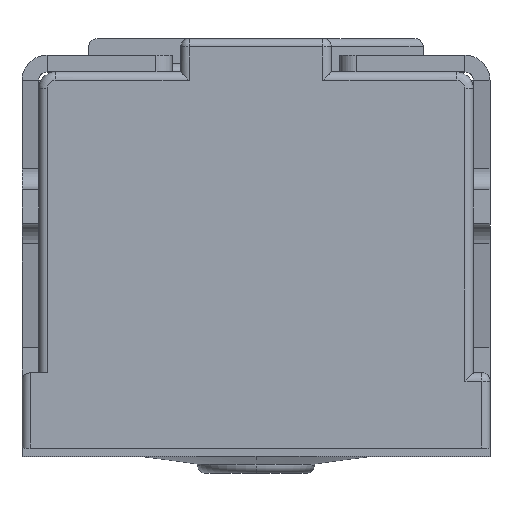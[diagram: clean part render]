
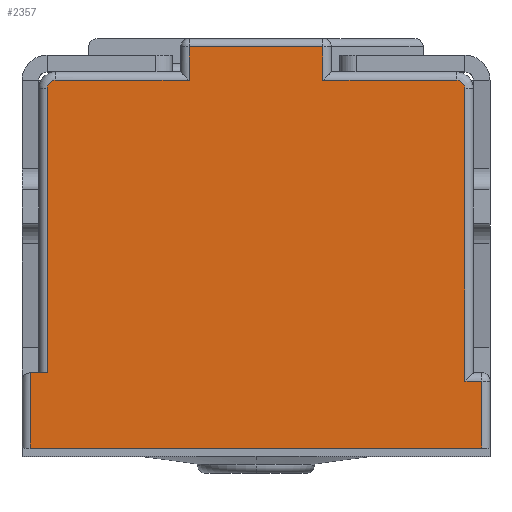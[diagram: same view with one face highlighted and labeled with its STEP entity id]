
A CAD part, top view. The second image highlights one B-rep face of the part: STEP entity #2357.
In plain terms, the highlighted planar face has unit normal (0, 0, 1).
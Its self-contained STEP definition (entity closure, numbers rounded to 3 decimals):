
#48=DIRECTION('',(1.,0.,0.));
#49=VECTOR('',#48,2.7);
#50=CARTESIAN_POINT('',(-1.35,0.,1.025));
#51=LINE('',#50,#49);
#183=DIRECTION('',(0.,-1.,0.));
#184=VECTOR('',#183,0.4);
#185=CARTESIAN_POINT('',(1.35,0.4,1.025));
#186=LINE('',#185,#184);
#190=DIRECTION('',(0.,-1.,0.));
#191=VECTOR('',#190,0.45);
#192=CARTESIAN_POINT('',(-1.35,0.45,1.025));
#193=LINE('',#192,#191);
#197=DIRECTION('',(0.,-1.,0.));
#198=VECTOR('',#197,1.7);
#199=CARTESIAN_POINT('',(-1.25,2.15,1.025));
#200=LINE('',#199,#198);
#204=CARTESIAN_POINT('',(-1.2,2.15,1.025));
#205=DIRECTION('',(0.,0.,1.));
#206=DIRECTION('',(0.,1.,0.));
#207=AXIS2_PLACEMENT_3D('',#204,#205,#206);
#212=DIRECTION('',(-1.,0.,0.));
#213=VECTOR('',#212,0.8);
#214=CARTESIAN_POINT('',(-0.4,2.2,1.025));
#215=LINE('',#214,#213);
#219=DIRECTION('',(0.,-1.,0.));
#220=VECTOR('',#219,0.2);
#221=CARTESIAN_POINT('',(-0.4,2.4,1.025));
#222=LINE('',#221,#220);
#226=DIRECTION('',(1.,0.,0.));
#227=VECTOR('',#226,0.8);
#228=CARTESIAN_POINT('',(-0.4,2.4,1.025));
#229=LINE('',#228,#227);
#233=DIRECTION('',(0.,1.,0.));
#234=VECTOR('',#233,0.2);
#235=CARTESIAN_POINT('',(0.4,2.2,1.025));
#236=LINE('',#235,#234);
#240=DIRECTION('',(-1.,0.,0.));
#241=VECTOR('',#240,0.8);
#242=CARTESIAN_POINT('',(1.2,2.2,1.025));
#243=LINE('',#242,#241);
#247=CARTESIAN_POINT('',(1.2,2.15,1.025));
#248=DIRECTION('',(0.,0.,1.));
#249=DIRECTION('',(1.,0.,0.));
#250=AXIS2_PLACEMENT_3D('',#247,#248,#249);
#255=DIRECTION('',(0.,1.,0.));
#256=VECTOR('',#255,1.75);
#257=CARTESIAN_POINT('',(1.25,0.4,1.025));
#258=LINE('',#257,#256);
#262=DIRECTION('',(-1.,0.,0.));
#263=VECTOR('',#262,0.1);
#264=CARTESIAN_POINT('',(1.35,0.4,1.025));
#265=LINE('',#264,#263);
#363=DIRECTION('',(-1.,0.,0.));
#364=VECTOR('',#363,0.1);
#365=CARTESIAN_POINT('',(-1.25,0.45,1.025));
#366=LINE('',#365,#364);
#1987=CARTESIAN_POINT('',(1.35,0.,1.025));
#1989=VERTEX_POINT('',#1987);
#1990=CARTESIAN_POINT('',(1.35,0.4,1.025));
#1991=VERTEX_POINT('',#1990);
#1994=CARTESIAN_POINT('',(-1.35,0.,1.025));
#1996=VERTEX_POINT('',#1994);
#2000=CARTESIAN_POINT('',(-1.35,0.45,1.025));
#2001=VERTEX_POINT('',#2000);
#2088=CARTESIAN_POINT('',(-1.25,2.15,1.025));
#2089=CARTESIAN_POINT('',(-1.25,0.45,1.025));
#2090=VERTEX_POINT('',#2088);
#2091=VERTEX_POINT('',#2089);
#2092=CARTESIAN_POINT('',(-1.2,2.2,1.025));
#2093=VERTEX_POINT('',#2092);
#2096=CARTESIAN_POINT('',(-0.4,2.2,1.025));
#2097=VERTEX_POINT('',#2096);
#2102=CARTESIAN_POINT('',(-0.4,2.4,1.025));
#2103=VERTEX_POINT('',#2102);
#2110=CARTESIAN_POINT('',(0.4,2.4,1.025));
#2111=VERTEX_POINT('',#2110);
#2130=CARTESIAN_POINT('',(0.4,2.2,1.025));
#2131=VERTEX_POINT('',#2130);
#2136=CARTESIAN_POINT('',(1.2,2.2,1.025));
#2137=VERTEX_POINT('',#2136);
#2138=CARTESIAN_POINT('',(1.25,2.15,1.025));
#2139=VERTEX_POINT('',#2138);
#2142=CARTESIAN_POINT('',(1.25,0.4,1.025));
#2143=VERTEX_POINT('',#2142);
#2324=CARTESIAN_POINT('',(-1.4,0.,1.025));
#2325=DIRECTION('',(0.,0.,1.));
#2326=DIRECTION('',(1.,0.,0.));
#2327=AXIS2_PLACEMENT_3D('',#2324,#2325,#2326);
#2328=PLANE('',#2327);
#2329=ORIENTED_EDGE('',*,*,#2316,.T.);
#2330=ORIENTED_EDGE('',*,*,#2222,.F.);
#2332=ORIENTED_EDGE('',*,*,#2331,.F.);
#2334=ORIENTED_EDGE('',*,*,#2333,.F.);
#2336=ORIENTED_EDGE('',*,*,#2335,.F.);
#2338=ORIENTED_EDGE('',*,*,#2337,.F.);
#2340=ORIENTED_EDGE('',*,*,#2339,.F.);
#2342=ORIENTED_EDGE('',*,*,#2341,.F.);
#2344=ORIENTED_EDGE('',*,*,#2343,.T.);
#2346=ORIENTED_EDGE('',*,*,#2345,.F.);
#2348=ORIENTED_EDGE('',*,*,#2347,.F.);
#2350=ORIENTED_EDGE('',*,*,#2349,.F.);
#2352=ORIENTED_EDGE('',*,*,#2351,.F.);
#2354=ORIENTED_EDGE('',*,*,#2353,.F.);
#2355=EDGE_LOOP('',(#2329,#2330,#2332,#2334,#2336,#2338,#2340,#2342,#2344,#2346,
#2348,#2350,#2352,#2354));
#2356=FACE_OUTER_BOUND('',#2355,.F.);
#208=CIRCLE('',#207,0.05);
#251=CIRCLE('',#250,0.05);
#2222=EDGE_CURVE('',#1996,#1989,#51,.T.);
#2316=EDGE_CURVE('',#1991,#1989,#186,.T.);
#2331=EDGE_CURVE('',#2001,#1996,#193,.T.);
#2333=EDGE_CURVE('',#2091,#2001,#366,.T.);
#2335=EDGE_CURVE('',#2090,#2091,#200,.T.);
#2337=EDGE_CURVE('',#2093,#2090,#208,.T.);
#2339=EDGE_CURVE('',#2097,#2093,#215,.T.);
#2341=EDGE_CURVE('',#2103,#2097,#222,.T.);
#2343=EDGE_CURVE('',#2103,#2111,#229,.T.);
#2345=EDGE_CURVE('',#2131,#2111,#236,.T.);
#2347=EDGE_CURVE('',#2137,#2131,#243,.T.);
#2349=EDGE_CURVE('',#2139,#2137,#251,.T.);
#2351=EDGE_CURVE('',#2143,#2139,#258,.T.);
#2353=EDGE_CURVE('',#1991,#2143,#265,.T.);
#2357=ADVANCED_FACE('',(#2356),#2328,.T.);
